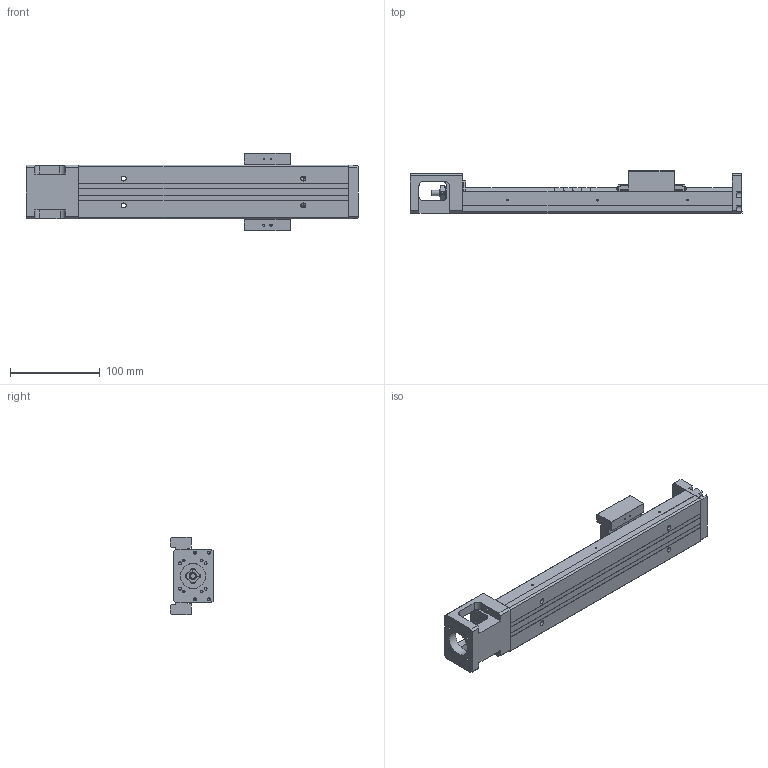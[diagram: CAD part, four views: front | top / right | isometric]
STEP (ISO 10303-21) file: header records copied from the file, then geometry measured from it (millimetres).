
FILE_DESCRIPTION(/* description */ (''),/* implementation_level */ '2;1');
FILE_NAME(/* name */ '33L-300.stp',/* time_stamp */ '2016-12-20T13:27:13+08:00',/* author */ (''),/* organization */ (''),/* preprocessor_version */ 'ST-DEVELOPER v11',/* originating_system */ 'SIEMENS UGS NX 6.0',/* authorisation */ '');
FILE_SCHEMA (('AUTOMOTIVE_DESIGN { 1 0 10303 214 1 1 1 1 }'));
Length unit declared in the file: millimetre
Products named in the file (1): model4
Bounding box: 370 x 47.95 x 86 mm (x, y, z)
Volume: 500551.3 mm3; surface area: 138998.3 mm2
Topology: 6 solids, 11 shells, 681 faces, 1716 edges, 1133 vertices
Faces by surface type: plane 406, cylinder 188, bspline 31, cone 24, extrusion 21, torus 9, revolution 2
Full cylindrical faces by diameter (mm): 1.6 x4, 1.65 x4, 2.15 x3, 2.42 x4, 2.45 x4, 2.5 x18, 3 x3, 3.2 x4, 3.3 x4, 3.4 x3, 3.5 x10, 3.969 x1, 4 x6, 4.001 x1, 4.135 x4, 4.2 x4, 5.5 x4, 6 x5, 7.6 x1, 8 x5, 9.5 x4, 10.72 x3, 11.8 x2, 12 x6, 12.8 x1, 13 x2, 14 x1, 17.38 x3, 21.5 x1, 22 x2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
Entity records: 35585 total; most frequent: CARTESIAN_POINT 16311, DIRECTION 3078, ORIENTED_EDGE 2978, EDGE_CURVE 1489, AXIS2_PLACEMENT_3D 1080, VERTEX_POINT 1059, EDGE_LOOP 964, VECTOR 916
